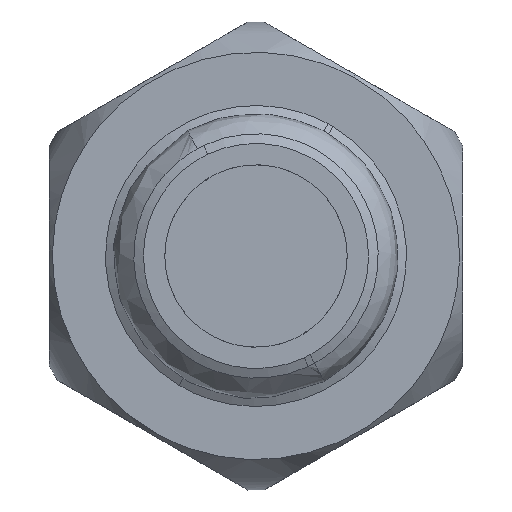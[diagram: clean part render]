
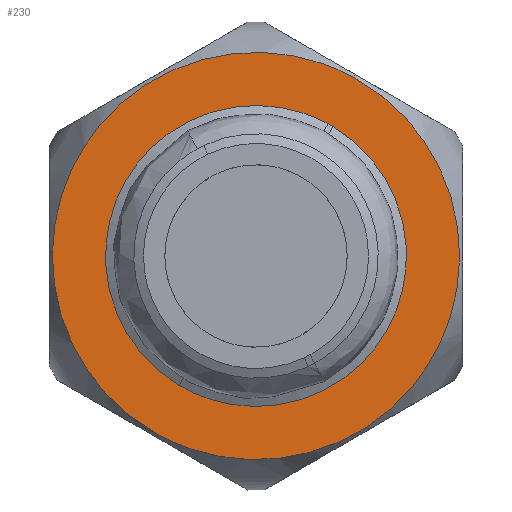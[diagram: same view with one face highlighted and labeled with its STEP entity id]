
A CAD part, left-side view. The second image highlights one B-rep face of the part: STEP entity #230.
In plain terms, the highlighted free-form (B-spline) face has degree [1, 1] with [2, 2] control points.
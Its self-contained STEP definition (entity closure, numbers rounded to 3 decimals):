
#230=ADVANCED_FACE('',(#461,#462),#463,.T.);
#461=FACE_OUTER_BOUND('',#1937,.T.);
#462=FACE_BOUND('',#1938,.T.);
#463=B_SPLINE_SURFACE_WITH_KNOTS('',1,1,((#1939,#1940),(#1941,#1942)),.UNSPECIFIED.,.F.,.F.,.F.,(2,2),(2,2),(0.0,33.478),(0.0,33.478),.UNSPECIFIED.);
#1937=EDGE_LOOP('',(#2369,#2370));
#1938=EDGE_LOOP('',(#2371,#2372,#2373));
#1939=CARTESIAN_POINT('',(-9.65,-16.739,-16.739));
#1940=CARTESIAN_POINT('',(-9.65,16.739,-16.739));
#1941=CARTESIAN_POINT('',(-9.65,-16.739,16.739));
#1942=CARTESIAN_POINT('',(-9.65,16.739,16.739));
#2369=ORIENTED_EDGE('',*,*,#2616,.F.);
#2370=ORIENTED_EDGE('',*,*,#2385,.F.);
#2371=ORIENTED_EDGE('',*,*,#2508,.T.);
#2372=ORIENTED_EDGE('',*,*,#2503,.T.);
#2373=ORIENTED_EDGE('',*,*,#2506,.T.);
#2385=EDGE_CURVE('',#2643,#2645,#2646,.T.);
#2503=EDGE_CURVE('',#2837,#2840,#2842,.T.);
#2506=EDGE_CURVE('',#2840,#2844,#2846,.T.);
#2508=EDGE_CURVE('',#2844,#2837,#2848,.T.);
#2616=EDGE_CURVE('',#2645,#2643,#2987,.T.);
#2643=VERTEX_POINT('',#3210);
#2645=VERTEX_POINT('',#3221);
#2646=(B_SPLINE_CURVE(2,(#3223,#3224,#3225,#3226,#3227),.UNSPECIFIED.,.F.,.F.)B_SPLINE_CURVE_WITH_KNOTS((3,2,3),(3.142,4.712,6.283),.UNSPECIFIED.)RATIONAL_B_SPLINE_CURVE((1.0,0.707,1.0,0.707,1.0))BOUNDED_CURVE()REPRESENTATION_ITEM('')GEOMETRIC_REPRESENTATION_ITEM()CURVE());
#2837=VERTEX_POINT('',#4215);
#2840=VERTEX_POINT('',#4234);
#2842=(B_SPLINE_CURVE(2,(#4238,#4239,#4240,#4241,#4242,#4243,#4244),.UNSPECIFIED.,.F.,.F.)B_SPLINE_CURVE_WITH_KNOTS((3,2,2,3),(-3.099,-1.571,0.,0.043),.UNSPECIFIED.)RATIONAL_B_SPLINE_CURVE((0.985,0.715,1.0,0.707,1.0,0.992,0.985))BOUNDED_CURVE()REPRESENTATION_ITEM('')GEOMETRIC_REPRESENTATION_ITEM()CURVE());
#2844=VERTEX_POINT('',#4252);
#2846=(B_SPLINE_CURVE(2,(#4256,#4257,#4258,#4259,#4260),.UNSPECIFIED.,.F.,.F.)B_SPLINE_CURVE_WITH_KNOTS((3,2,3),(0.043,1.571,3.142),.UNSPECIFIED.)RATIONAL_B_SPLINE_CURVE((0.985,0.715,1.0,0.707,1.0))BOUNDED_CURVE()REPRESENTATION_ITEM('')GEOMETRIC_REPRESENTATION_ITEM()CURVE());
#2848=(B_SPLINE_CURVE(2,(#4269,#4270,#4271),.UNSPECIFIED.,.F.,.F.)B_SPLINE_CURVE_WITH_KNOTS((3,3),(-3.142,-3.099),.UNSPECIFIED.)RATIONAL_B_SPLINE_CURVE((1.0,0.992,0.985))BOUNDED_CURVE()REPRESENTATION_ITEM('')GEOMETRIC_REPRESENTATION_ITEM()CURVE());
#2987=(B_SPLINE_CURVE(2,(#4940,#4941,#4942,#4943,#4944),.UNSPECIFIED.,.F.,.F.)B_SPLINE_CURVE_WITH_KNOTS((3,2,3),(0.,1.571,3.142),.UNSPECIFIED.)RATIONAL_B_SPLINE_CURVE((1.0,0.707,1.0,0.707,1.0))BOUNDED_CURVE()REPRESENTATION_ITEM('')GEOMETRIC_REPRESENTATION_ITEM()CURVE());
#3210=CARTESIAN_POINT('',(-9.65,8.025,-14.69));
#3221=CARTESIAN_POINT('',(-9.65,-8.025,14.69));
#3223=CARTESIAN_POINT('',(-9.65,8.025,-14.69));
#3224=CARTESIAN_POINT('',(-9.65,22.715,-6.665));
#3225=CARTESIAN_POINT('',(-9.65,14.69,8.025));
#3226=CARTESIAN_POINT('',(-9.65,6.665,22.715));
#3227=CARTESIAN_POINT('',(-9.65,-8.025,14.69));
#4215=CARTESIAN_POINT('',(-9.65,-6.347,10.619));
#4234=CARTESIAN_POINT('',(-9.65,6.347,-10.619));
#4238=CARTESIAN_POINT('',(-9.65,-6.347,10.619));
#4239=CARTESIAN_POINT('',(-9.65,-16.562,4.513));
#4240=CARTESIAN_POINT('',(-9.65,-10.857,-5.931));
#4241=CARTESIAN_POINT('',(-9.65,-4.926,-16.788));
#4242=CARTESIAN_POINT('',(-9.65,5.931,-10.857));
#4243=CARTESIAN_POINT('',(-9.65,6.141,-10.742));
#4244=CARTESIAN_POINT('',(-9.65,6.347,-10.619));
#4252=CARTESIAN_POINT('',(-9.65,-5.931,10.857));
#4256=CARTESIAN_POINT('',(-9.65,6.347,-10.619));
#4257=CARTESIAN_POINT('',(-9.65,16.562,-4.513));
#4258=CARTESIAN_POINT('',(-9.65,10.857,5.931));
#4259=CARTESIAN_POINT('',(-9.65,4.926,16.788));
#4260=CARTESIAN_POINT('',(-9.65,-5.931,10.857));
#4269=CARTESIAN_POINT('',(-9.65,-5.931,10.857));
#4270=CARTESIAN_POINT('',(-9.65,-6.141,10.742));
#4271=CARTESIAN_POINT('',(-9.65,-6.347,10.619));
#4940=CARTESIAN_POINT('',(-9.65,-8.025,14.69));
#4941=CARTESIAN_POINT('',(-9.65,-22.715,6.665));
#4942=CARTESIAN_POINT('',(-9.65,-14.69,-8.025));
#4943=CARTESIAN_POINT('',(-9.65,-6.665,-22.715));
#4944=CARTESIAN_POINT('',(-9.65,8.025,-14.69));
